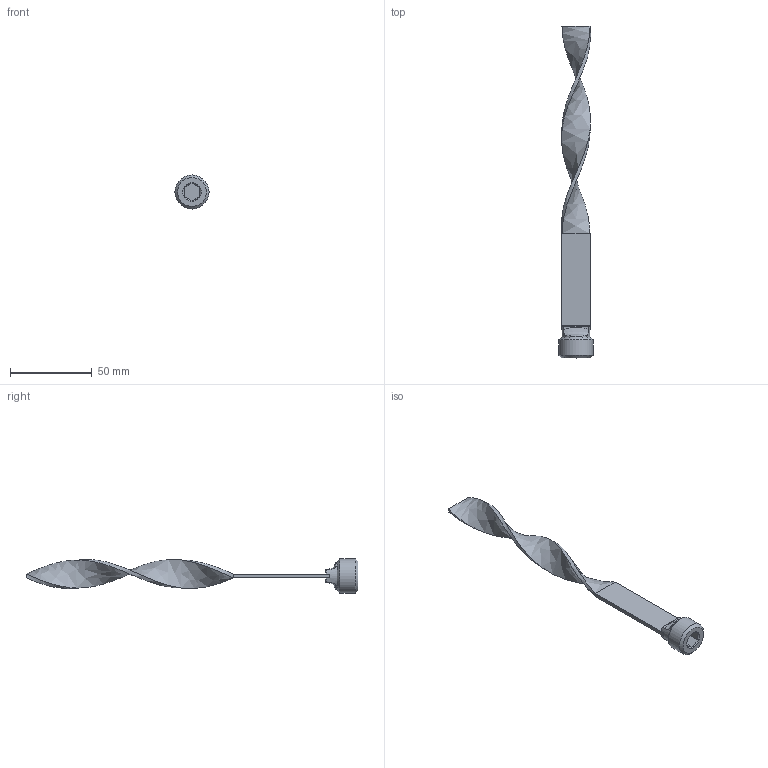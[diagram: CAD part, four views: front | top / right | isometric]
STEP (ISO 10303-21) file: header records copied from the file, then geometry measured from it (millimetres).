
FILE_DESCRIPTION(/* description */ (''),/* implementation_level */ '2;1');
FILE_NAME(/* name */ 'C:/Users/drich/Desktop/TB12X8 BSP v1.step',/* time_stamp */ '2020-01-14T09:24:13-06:00',/* author */ (''),/* organization */ (''),/* preprocessor_version */ 'ST-DEVELOPER v18',/* originating_system */ 'Autodesk Translation Framework v8.12.0.6',/* authorisation */ '');
FILE_SCHEMA (('AUTOMOTIVE_DESIGN { 1 0 10303 214 3 1 1 }'));
Length unit declared in the file: inch
Products named in the file (1): TB12X8 BSP
Bounding box: 20.81 x 203.2 x 20.81 mm (x, y, z)
Volume: 11831.7 mm3; surface area: 9475.4 mm2
Topology: 2 solids, 2 shells, 41 faces, 101 edges, 66 vertices
Faces by surface type: plane 20, cylinder 6, torus 6, bspline 6, cone 3
Full cylindrical faces by diameter (mm): 17.018 x1, 20.813 x1
Entity records: 1957 total; most frequent: CARTESIAN_POINT 988, ORIENTED_EDGE 202, DIRECTION 177, EDGE_CURVE 101, VERTEX_POINT 66, AXIS2_PLACEMENT_3D 66, LINE 45, VECTOR 45
